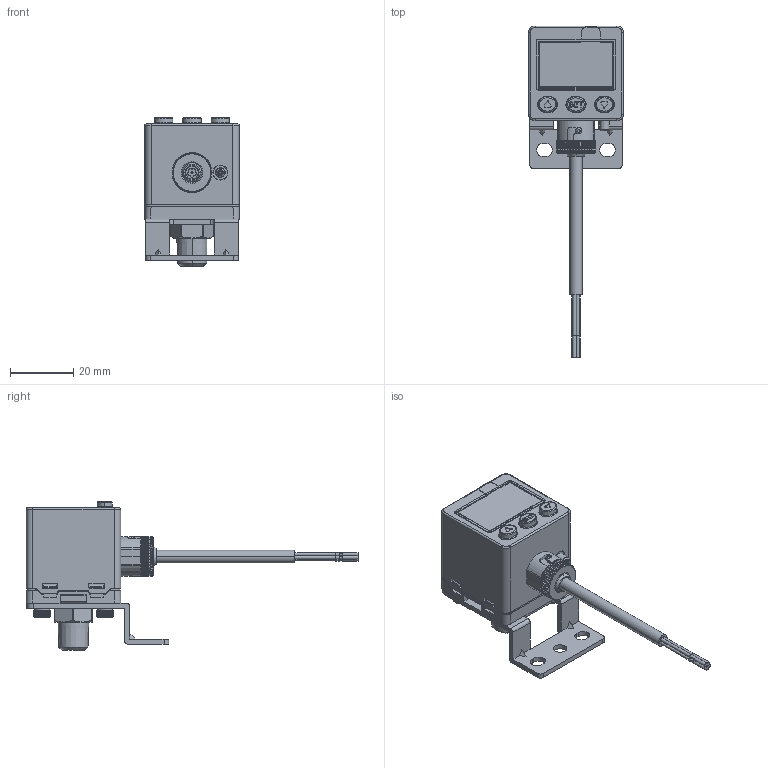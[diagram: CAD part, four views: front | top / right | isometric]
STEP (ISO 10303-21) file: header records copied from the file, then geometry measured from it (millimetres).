
FILE_DESCRIPTION((''),'2;1');
FILE_NAME('KP45-BT-10','2019-07-05T',('Stark'),(''),'CREO PARAMETRIC BY PTC INC, 2014500','CREO PARAMETRIC BY PTC INC, 2014500','');
FILE_SCHEMA(('CONFIG_CONTROL_DESIGN'));
Products named in the file (1): KP45-BT-10
Bounding box: 30.08 x 105.34 x 47.2 mm (x, y, z)
Volume: 31834.6 mm3; surface area: 10441.8 mm2
Topology: 1 solids, 3 shells, 1441 faces, 3798 edges, 2398 vertices
Faces by surface type: plane 672, cylinder 421, cone 240, bspline 62, torus 28, extrusion 10, sphere 8
Entity records: 54746 total; most frequent: CARTESIAN_POINT 21161, ORIENTED_EDGE 7576, DIRECTION 6203, EDGE_CURVE 3788, VERTEX_POINT 2398, AXIS2_PLACEMENT_3D 2273, VECTOR 1657, LINE 1647
